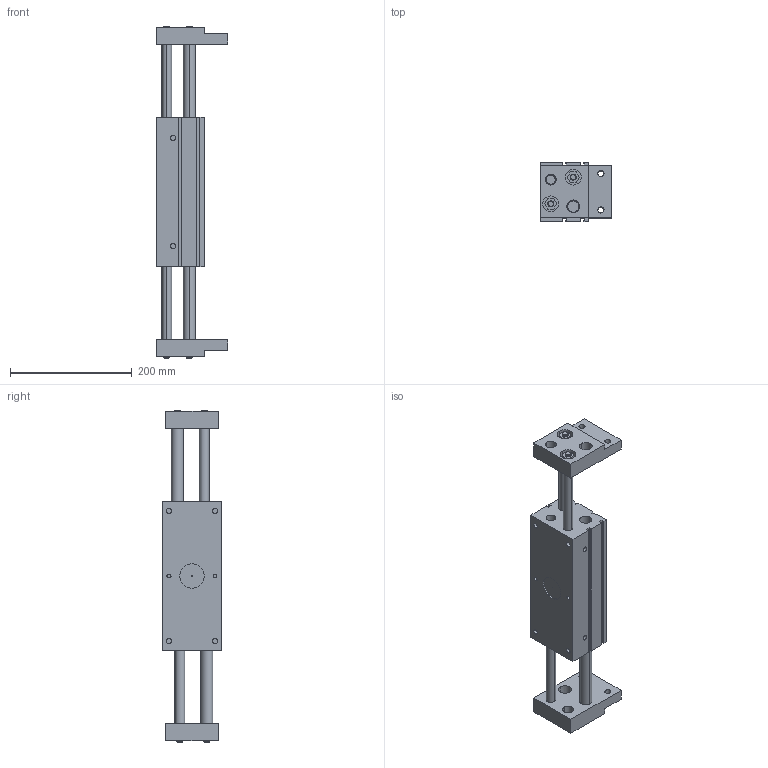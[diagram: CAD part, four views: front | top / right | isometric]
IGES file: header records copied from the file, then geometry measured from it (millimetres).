
Global section: file name: No Iges File Name specified; native system: Autodesk Inventor 2011; preprocessor: AutoDesk Inventor Iges Exporter R2011; author: airolcr1; date: 20110614.104500; units: millimetre
Bounding box: 118 x 98 x 546 mm (x, y, z)
Volume: 2365139.8 mm3; surface area: 320237.5 mm2
Topology: 3 solids, 3 shells, 203 faces, 494 edges, 322 vertices
Faces by surface type: plane 101, bspline 56, cylinder 16, cone 16, revolution 14
